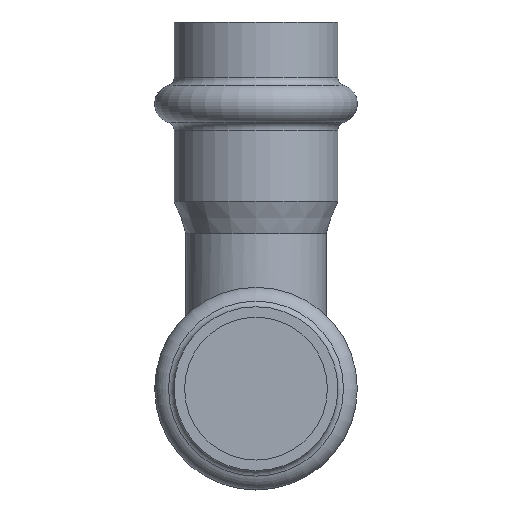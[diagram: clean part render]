
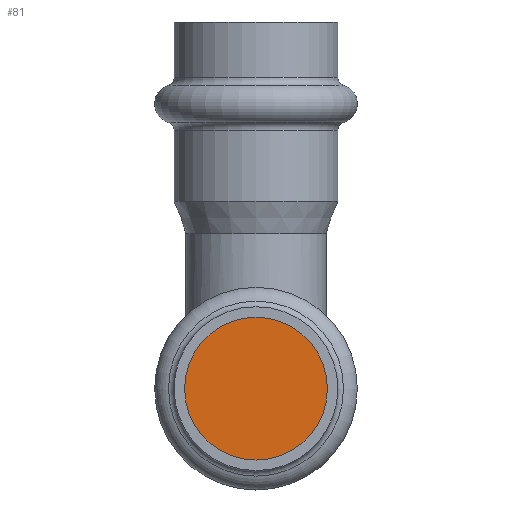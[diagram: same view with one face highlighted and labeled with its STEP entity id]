
A CAD part, front view. The second image highlights one B-rep face of the part: STEP entity #81.
In plain terms, the highlighted planar face has unit normal (0, -1, 0).
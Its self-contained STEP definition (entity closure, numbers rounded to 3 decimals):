
#81=ADVANCED_FACE('',(#332),#334,.T.);
#332=FACE_BOUND('',#333,.T.);
#333=EDGE_LOOP('',(#400));
#334=PLANE('',#335);
#335=AXIS2_PLACEMENT_3D('',#336,#337,#338);
#336=CARTESIAN_POINT('',(0.,-37.354,0.));
#337=DIRECTION('',(0.,-1.,0.));
#338=DIRECTION('',(0.,0.,-1.));
#400=ORIENTED_EDGE('',*,*,#431,.T.);
#431=EDGE_CURVE('',#492,#492,#493,.F.);
#492=VERTEX_POINT('',#644);
#493=CIRCLE('',#645,9.15);
#644=CARTESIAN_POINT('',(0.,-37.354,9.15));
#645=AXIS2_PLACEMENT_3D('',#646,#647,#648);
#646=CARTESIAN_POINT('',(0.,-37.354,0.));
#647=DIRECTION('',(0.,1.,0.));
#648=DIRECTION('',(0.,0.,1.));
